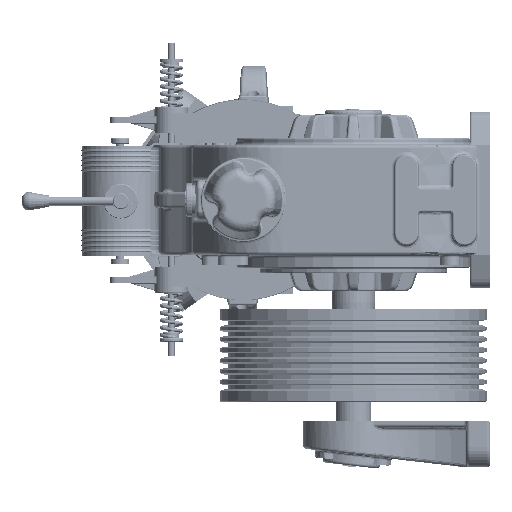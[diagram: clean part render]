
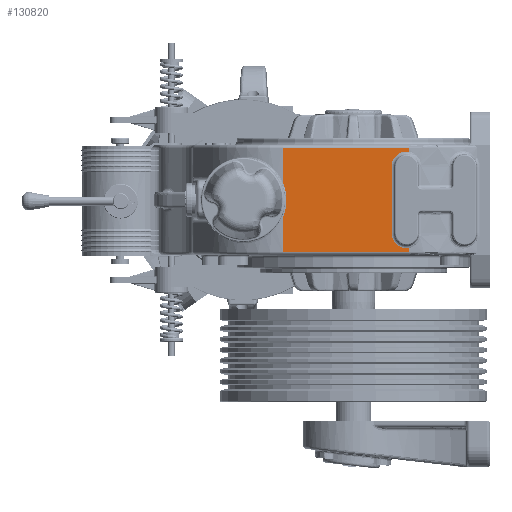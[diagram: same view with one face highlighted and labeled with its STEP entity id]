
A CAD part, left-side view. The second image highlights one B-rep face of the part: STEP entity #130820.
In plain terms, the highlighted planar face has unit normal (-1, 0, 0).
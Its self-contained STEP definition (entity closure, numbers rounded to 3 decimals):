
#2143 = DIRECTION ( 'NONE',  ( 1., 0., 0. ) ) ;
#3029 = VERTEX_POINT ( 'NONE', #169530 ) ;
#5912 = AXIS2_PLACEMENT_3D ( 'NONE', #126326, #2143, #80760 ) ;
#5999 = ORIENTED_EDGE ( 'NONE', *, *, #117164, .T. ) ;
#7786 = AXIS2_PLACEMENT_3D ( 'NONE', #43632, #16692, #77794 ) ;
#10942 = VECTOR ( 'NONE', #104113, 1000. ) ;
#12387 = VERTEX_POINT ( 'NONE', #162501 ) ;
#12590 = VERTEX_POINT ( 'NONE', #169669 ) ;
#14457 = DIRECTION ( 'NONE',  ( 0., 0., -1. ) ) ;
#16692 = DIRECTION ( 'NONE',  ( 1., 0., 0. ) ) ;
#17681 = VERTEX_POINT ( 'NONE', #61864 ) ;
#21535 = VECTOR ( 'NONE', #31233, 1000. ) ;
#22117 = EDGE_LOOP ( 'NONE', ( #101220, #106255, #37905, #168592, #103294, #29713, #192803, #5999, #168841, #71130, #107881 ) ) ;
#29713 = ORIENTED_EDGE ( 'NONE', *, *, #142899, .T. ) ;
#29811 = EDGE_CURVE ( 'NONE', #73672, #17681, #135928, .T. ) ;
#31233 = DIRECTION ( 'NONE',  ( 0., 0., -1. ) ) ;
#33438 = CARTESIAN_POINT ( 'NONE',  ( -484.734, -45.271, 166.645 ) ) ;
#35164 = EDGE_CURVE ( 'NONE', #122829, #3029, #42237, .T. ) ;
#37905 = ORIENTED_EDGE ( 'NONE', *, *, #191842, .T. ) ;
#39003 = DIRECTION ( 'NONE',  ( 0., 0., -1. ) ) ;
#39674 = CARTESIAN_POINT ( 'NONE',  ( -484.734, -45.271, 111.634 ) ) ;
#42064 = LINE ( 'NONE', #138280, #196846 ) ;
#42237 = CIRCLE ( 'NONE', #5912, 65. ) ;
#43632 = CARTESIAN_POINT ( 'NONE',  ( -484.734, -234.39, 166.645 ) ) ;
#45052 = VERTEX_POINT ( 'NONE', #111755 ) ;
#46180 = DIRECTION ( 'NONE',  ( 0., 0., -1. ) ) ;
#46513 = CARTESIAN_POINT ( 'NONE',  ( -484.734, -231.37, 134.145 ) ) ;
#47740 = FACE_OUTER_BOUND ( 'NONE', #22117, .T. ) ;
#52500 = CARTESIAN_POINT ( 'NONE',  ( -484.734, -208.87, 34.145 ) ) ;
#52551 = VERTEX_POINT ( 'NONE', #52500 ) ;
#55368 = LINE ( 'NONE', #165109, #173372 ) ;
#57284 = CARTESIAN_POINT ( 'NONE',  ( -484.734, -234.39, 166.645 ) ) ;
#59463 = AXIS2_PLACEMENT_3D ( 'NONE', #74884, #199023, #171137 ) ;
#61864 = CARTESIAN_POINT ( 'NONE',  ( -484.734, -234.39, 156.442 ) ) ;
#65658 = CARTESIAN_POINT ( 'NONE',  ( -484.734, -45.271, 161.645 ) ) ;
#70072 = VECTOR ( 'NONE', #86264, 1000. ) ;
#70117 = VERTEX_POINT ( 'NONE', #65658 ) ;
#71130 = ORIENTED_EDGE ( 'NONE', *, *, #29811, .F. ) ;
#72479 = VERTEX_POINT ( 'NONE', #169169 ) ;
#73345 = EDGE_CURVE ( 'NONE', #45052, #17681, #153502, .T. ) ;
#73672 = VERTEX_POINT ( 'NONE', #112698 ) ;
#74884 = CARTESIAN_POINT ( 'NONE',  ( -484.734, -231.37, 34.145 ) ) ;
#76928 = DIRECTION ( 'NONE',  ( 0., 0., -1. ) ) ;
#77794 = DIRECTION ( 'NONE',  ( 0., 0., -1. ) ) ;
#79042 = DIRECTION ( 'NONE',  ( 0., 0., -1. ) ) ;
#80760 = DIRECTION ( 'NONE',  ( 0., 0., -1. ) ) ;
#82432 = EDGE_CURVE ( 'NONE', #73672, #70117, #195185, .T. ) ;
#86264 = DIRECTION ( 'NONE',  ( 0., -1., 0. ) ) ;
#87451 = AXIS2_PLACEMENT_3D ( 'NONE', #46513, #93079, #14457 ) ;
#88666 = DIRECTION ( 'NONE',  ( 1., 0., 0. ) ) ;
#93079 = DIRECTION ( 'NONE',  ( 1., 0., 0. ) ) ;
#93326 = CARTESIAN_POINT ( 'NONE',  ( -484.734, -45.271, 166.645 ) ) ;
#101131 = CARTESIAN_POINT ( 'NONE',  ( -484.734, -231.37, 34.145 ) ) ;
#101220 = ORIENTED_EDGE ( 'NONE', *, *, #202711, .T. ) ;
#103294 = ORIENTED_EDGE ( 'NONE', *, *, #134078, .F. ) ;
#104113 = DIRECTION ( 'NONE',  ( 0., 1., 0. ) ) ;
#106255 = ORIENTED_EDGE ( 'NONE', *, *, #35164, .T. ) ;
#107881 = ORIENTED_EDGE ( 'NONE', *, *, #82432, .T. ) ;
#108086 = EDGE_CURVE ( 'NONE', #12387, #52551, #148625, .T. ) ;
#111755 = CARTESIAN_POINT ( 'NONE',  ( -484.734, -208.87, 134.145 ) ) ;
#112698 = CARTESIAN_POINT ( 'NONE',  ( -484.734, -234.39, 161.645 ) ) ;
#114689 = LINE ( 'NONE', #93326, #21535 ) ;
#115293 = LINE ( 'NONE', #116299, #70072 ) ;
#116299 = CARTESIAN_POINT ( 'NONE',  ( -484.734, -234.39, 6.645 ) ) ;
#117164 = EDGE_CURVE ( 'NONE', #52551, #45052, #55368, .T. ) ;
#121882 = CIRCLE ( 'NONE', #171465, 22.5 ) ;
#122829 = VERTEX_POINT ( 'NONE', #39674 ) ;
#126326 = CARTESIAN_POINT ( 'NONE',  ( -484.734, 13.63, 84.145 ) ) ;
#130820 = ADVANCED_FACE ( 'NONE', ( #47740 ), #204005, .F. ) ;
#134078 = EDGE_CURVE ( 'NONE', #154008, #12590, #42064, .T. ) ;
#135928 = LINE ( 'NONE', #57284, #191848 ) ;
#138280 = CARTESIAN_POINT ( 'NONE',  ( -484.734, -234.39, 166.645 ) ) ;
#142899 = EDGE_CURVE ( 'NONE', #154008, #12387, #121882, .T. ) ;
#148625 = CIRCLE ( 'NONE', #59463, 22.5 ) ;
#148758 = VECTOR ( 'NONE', #79042, 1000. ) ;
#153502 = CIRCLE ( 'NONE', #87451, 22.5 ) ;
#154008 = VERTEX_POINT ( 'NONE', #194734 ) ;
#157382 = EDGE_CURVE ( 'NONE', #72479, #12590, #115293, .T. ) ;
#162050 = DIRECTION ( 'NONE',  ( 0., 0., 1. ) ) ;
#162501 = CARTESIAN_POINT ( 'NONE',  ( -484.734, -231.37, 11.645 ) ) ;
#165109 = CARTESIAN_POINT ( 'NONE',  ( -484.734, -208.87, 134.145 ) ) ;
#168592 = ORIENTED_EDGE ( 'NONE', *, *, #157382, .T. ) ;
#168841 = ORIENTED_EDGE ( 'NONE', *, *, #73345, .T. ) ;
#169169 = CARTESIAN_POINT ( 'NONE',  ( -484.734, -45.271, 6.645 ) ) ;
#169530 = CARTESIAN_POINT ( 'NONE',  ( -484.734, -45.271, 56.656 ) ) ;
#169669 = CARTESIAN_POINT ( 'NONE',  ( -484.734, -234.39, 6.645 ) ) ;
#171137 = DIRECTION ( 'NONE',  ( 0., 0., -1. ) ) ;
#171465 = AXIS2_PLACEMENT_3D ( 'NONE', #101131, #88666, #39003 ) ;
#173372 = VECTOR ( 'NONE', #162050, 1000. ) ;
#175235 = LINE ( 'NONE', #33438, #148758 ) ;
#191842 = EDGE_CURVE ( 'NONE', #3029, #72479, #175235, .T. ) ;
#191848 = VECTOR ( 'NONE', #76928, 1000. ) ;
#192803 = ORIENTED_EDGE ( 'NONE', *, *, #108086, .T. ) ;
#194734 = CARTESIAN_POINT ( 'NONE',  ( -484.734, -234.39, 11.849 ) ) ;
#195185 = LINE ( 'NONE', #196201, #10942 ) ;
#196201 = CARTESIAN_POINT ( 'NONE',  ( -484.734, -234.39, 161.645 ) ) ;
#196846 = VECTOR ( 'NONE', #46180, 1000. ) ;
#199023 = DIRECTION ( 'NONE',  ( 1., 0., 0. ) ) ;
#202711 = EDGE_CURVE ( 'NONE', #70117, #122829, #114689, .T. ) ;
#204005 = PLANE ( 'NONE',  #7786 ) ;
